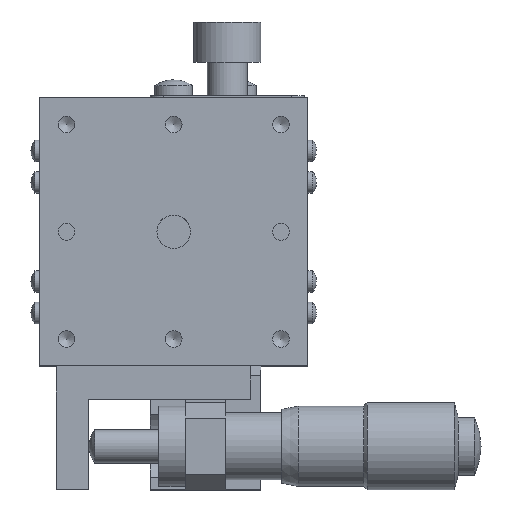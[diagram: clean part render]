
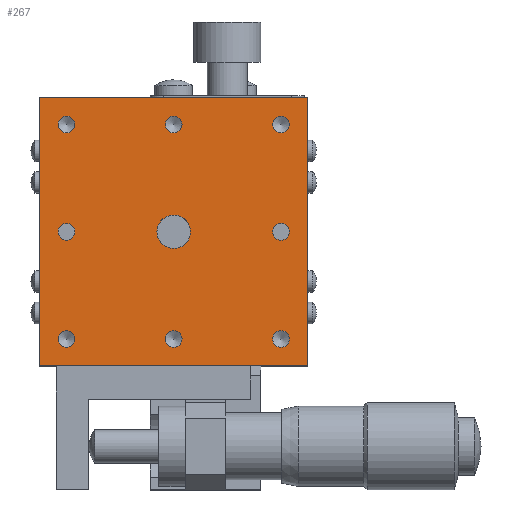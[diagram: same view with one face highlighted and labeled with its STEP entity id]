
A CAD part, top view. The second image highlights one B-rep face of the part: STEP entity #267.
In plain terms, the highlighted planar face has unit normal (0, 0, 1).
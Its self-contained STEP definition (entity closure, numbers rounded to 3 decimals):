
#267 = ADVANCED_FACE( '', ( #666, #667, #668, #669, #670, #671, #672, #673, #674, #675 ), #676, .T. );
#666 = FACE_BOUND( '', #1270, .T. );
#667 = FACE_BOUND( '', #1271, .T. );
#668 = FACE_BOUND( '', #1272, .T. );
#669 = FACE_BOUND( '', #1273, .T. );
#670 = FACE_BOUND( '', #1274, .T. );
#671 = FACE_BOUND( '', #1275, .T. );
#672 = FACE_BOUND( '', #1276, .T. );
#673 = FACE_BOUND( '', #1277, .T. );
#674 = FACE_OUTER_BOUND( '', #1278, .T. );
#675 = FACE_BOUND( '', #1279, .T. );
#676 = PLANE( '', #1280 );
#1270 = EDGE_LOOP( '', ( #1985 ) );
#1271 = EDGE_LOOP( '', ( #1986 ) );
#1272 = EDGE_LOOP( '', ( #1987 ) );
#1273 = EDGE_LOOP( '', ( #1988 ) );
#1274 = EDGE_LOOP( '', ( #1989 ) );
#1275 = EDGE_LOOP( '', ( #1990 ) );
#1276 = EDGE_LOOP( '', ( #1991 ) );
#1277 = EDGE_LOOP( '', ( #1992 ) );
#1278 = EDGE_LOOP( '', ( #1993, #1994, #1995, #1996 ) );
#1279 = EDGE_LOOP( '', ( #1997 ) );
#1280 = AXIS2_PLACEMENT_3D( '', #1998, #1999, #2000 );
#1985 = ORIENTED_EDGE( '', *, *, #3157, .T. );
#1986 = ORIENTED_EDGE( '', *, *, #3069, .T. );
#1987 = ORIENTED_EDGE( '', *, *, #3158, .T. );
#1988 = ORIENTED_EDGE( '', *, *, #3159, .T. );
#1989 = ORIENTED_EDGE( '', *, *, #3160, .T. );
#1990 = ORIENTED_EDGE( '', *, *, #3034, .T. );
#1991 = ORIENTED_EDGE( '', *, *, #3161, .T. );
#1992 = ORIENTED_EDGE( '', *, *, #3162, .T. );
#1993 = ORIENTED_EDGE( '', *, *, #3163, .F. );
#1994 = ORIENTED_EDGE( '', *, *, #3164, .F. );
#1995 = ORIENTED_EDGE( '', *, *, #3165, .F. );
#1996 = ORIENTED_EDGE( '', *, *, #3126, .F. );
#1997 = ORIENTED_EDGE( '', *, *, #3147, .F. );
#1998 = CARTESIAN_POINT( '', ( 0., 0., 20. ) );
#1999 = DIRECTION( '', ( 0., 0., 1. ) );
#2000 = DIRECTION( '', ( 0., 1., 0. ) );
#3034 = EDGE_CURVE( '', #3528, #3528, #3529, .T. );
#3069 = EDGE_CURVE( '', #3593, #3593, #3594, .T. );
#3126 = EDGE_CURVE( '', #3690, #3692, #3693, .T. );
#3147 = EDGE_CURVE( '', #3722, #3722, #3723, .T. );
#3157 = EDGE_CURVE( '', #3738, #3738, #3739, .T. );
#3158 = EDGE_CURVE( '', #3740, #3740, #3741, .T. );
#3159 = EDGE_CURVE( '', #3742, #3742, #3743, .T. );
#3160 = EDGE_CURVE( '', #3744, #3744, #3745, .T. );
#3161 = EDGE_CURVE( '', #3746, #3746, #3747, .T. );
#3162 = EDGE_CURVE( '', #3748, #3748, #3749, .T. );
#3163 = EDGE_CURVE( '', #3750, #3690, #3751, .T. );
#3164 = EDGE_CURVE( '', #3752, #3750, #3753, .T. );
#3165 = EDGE_CURVE( '', #3692, #3752, #3754, .T. );
#3528 = VERTEX_POINT( '', #4252 );
#3529 = CIRCLE( '', #4253, 1.25 );
#3593 = VERTEX_POINT( '', #4337 );
#3594 = CIRCLE( '', #4338, 1.25 );
#3690 = VERTEX_POINT( '', #4463 );
#3692 = VERTEX_POINT( '', #4466 );
#3693 = LINE( '', #4467, #4468 );
#3722 = VERTEX_POINT( '', #4505 );
#3723 = CIRCLE( '', #4506, 2.5 );
#3738 = VERTEX_POINT( '', #4521 );
#3739 = CIRCLE( '', #4522, 1.25 );
#3740 = VERTEX_POINT( '', #4523 );
#3741 = CIRCLE( '', #4524, 1.25 );
#3742 = VERTEX_POINT( '', #4525 );
#3743 = CIRCLE( '', #4526, 1.25 );
#3744 = VERTEX_POINT( '', #4527 );
#3745 = CIRCLE( '', #4528, 1.25 );
#3746 = VERTEX_POINT( '', #4529 );
#3747 = CIRCLE( '', #4530, 1.25 );
#3748 = VERTEX_POINT( '', #4531 );
#3749 = CIRCLE( '', #4532, 1.25 );
#3750 = VERTEX_POINT( '', #4533 );
#3751 = LINE( '', #4534, #4535 );
#3752 = VERTEX_POINT( '', #4536 );
#3753 = LINE( '', #4537, #4538 );
#3754 = LINE( '', #4539, #4540 );
#4252 = CARTESIAN_POINT( '', ( 16., -17.25, 20. ) );
#4253 = AXIS2_PLACEMENT_3D( '', #5150, #5151, #5152 );
#4337 = CARTESIAN_POINT( '', ( -16., 14.75, 20. ) );
#4338 = AXIS2_PLACEMENT_3D( '', #5200, #5201, #5202 );
#4463 = CARTESIAN_POINT( '', ( -20., 20., 20. ) );
#4466 = CARTESIAN_POINT( '', ( 20., 20., 20. ) );
#4467 = CARTESIAN_POINT( '', ( 0., 20., 20. ) );
#4468 = VECTOR( '', #5269, 1000. );
#4505 = CARTESIAN_POINT( '', ( 0., 2.5, 20. ) );
#4506 = AXIS2_PLACEMENT_3D( '', #5293, #5294, #5295 );
#4521 = CARTESIAN_POINT( '', ( -16., -1.25, 20. ) );
#4522 = AXIS2_PLACEMENT_3D( '', #5311, #5312, #5313 );
#4523 = CARTESIAN_POINT( '', ( 0., 14.75, 20. ) );
#4524 = AXIS2_PLACEMENT_3D( '', #5314, #5315, #5316 );
#4525 = CARTESIAN_POINT( '', ( 16., 14.75, 20. ) );
#4526 = AXIS2_PLACEMENT_3D( '', #5317, #5318, #5319 );
#4527 = CARTESIAN_POINT( '', ( 16., -1.25, 20. ) );
#4528 = AXIS2_PLACEMENT_3D( '', #5320, #5321, #5322 );
#4529 = CARTESIAN_POINT( '', ( 0., -17.25, 20. ) );
#4530 = AXIS2_PLACEMENT_3D( '', #5323, #5324, #5325 );
#4531 = CARTESIAN_POINT( '', ( -16., -17.25, 20. ) );
#4532 = AXIS2_PLACEMENT_3D( '', #5326, #5327, #5328 );
#4533 = CARTESIAN_POINT( '', ( -20., -20., 20. ) );
#4534 = CARTESIAN_POINT( '', ( -20., 0., 20. ) );
#4535 = VECTOR( '', #5329, 1000. );
#4536 = CARTESIAN_POINT( '', ( 20., -20., 20. ) );
#4537 = CARTESIAN_POINT( '', ( 0., -20., 20. ) );
#4538 = VECTOR( '', #5330, 1000. );
#4539 = CARTESIAN_POINT( '', ( 20., 0., 20. ) );
#4540 = VECTOR( '', #5331, 1000. );
#5150 = CARTESIAN_POINT( '', ( 16., -16., 20. ) );
#5151 = DIRECTION( '', ( 0., 0., -1. ) );
#5152 = DIRECTION( '', ( 0., -1., 0. ) );
#5200 = CARTESIAN_POINT( '', ( -16., 16., 20. ) );
#5201 = DIRECTION( '', ( 0., 0., -1. ) );
#5202 = DIRECTION( '', ( 0., -1., 0. ) );
#5269 = DIRECTION( '', ( 1., 0., 0. ) );
#5293 = CARTESIAN_POINT( '', ( 0., 0., 20. ) );
#5294 = DIRECTION( '', ( 0., 0., 1. ) );
#5295 = DIRECTION( '', ( 0., 1., 0. ) );
#5311 = CARTESIAN_POINT( '', ( -16., 0., 20. ) );
#5312 = DIRECTION( '', ( 0., 0., -1. ) );
#5313 = DIRECTION( '', ( 0., -1., 0. ) );
#5314 = CARTESIAN_POINT( '', ( 0., 16., 20. ) );
#5315 = DIRECTION( '', ( 0., 0., -1. ) );
#5316 = DIRECTION( '', ( 0., -1., 0. ) );
#5317 = CARTESIAN_POINT( '', ( 16., 16., 20. ) );
#5318 = DIRECTION( '', ( 0., 0., -1. ) );
#5319 = DIRECTION( '', ( 0., -1., 0. ) );
#5320 = CARTESIAN_POINT( '', ( 16., 0., 20. ) );
#5321 = DIRECTION( '', ( 0., 0., -1. ) );
#5322 = DIRECTION( '', ( 0., -1., 0. ) );
#5323 = CARTESIAN_POINT( '', ( 0., -16., 20. ) );
#5324 = DIRECTION( '', ( 0., 0., -1. ) );
#5325 = DIRECTION( '', ( 0., -1., 0. ) );
#5326 = CARTESIAN_POINT( '', ( -16., -16., 20. ) );
#5327 = DIRECTION( '', ( 0., 0., -1. ) );
#5328 = DIRECTION( '', ( 0., -1., 0. ) );
#5329 = DIRECTION( '', ( 0., 1., 0. ) );
#5330 = DIRECTION( '', ( -1., 0., 0. ) );
#5331 = DIRECTION( '', ( 0., -1., 0. ) );
